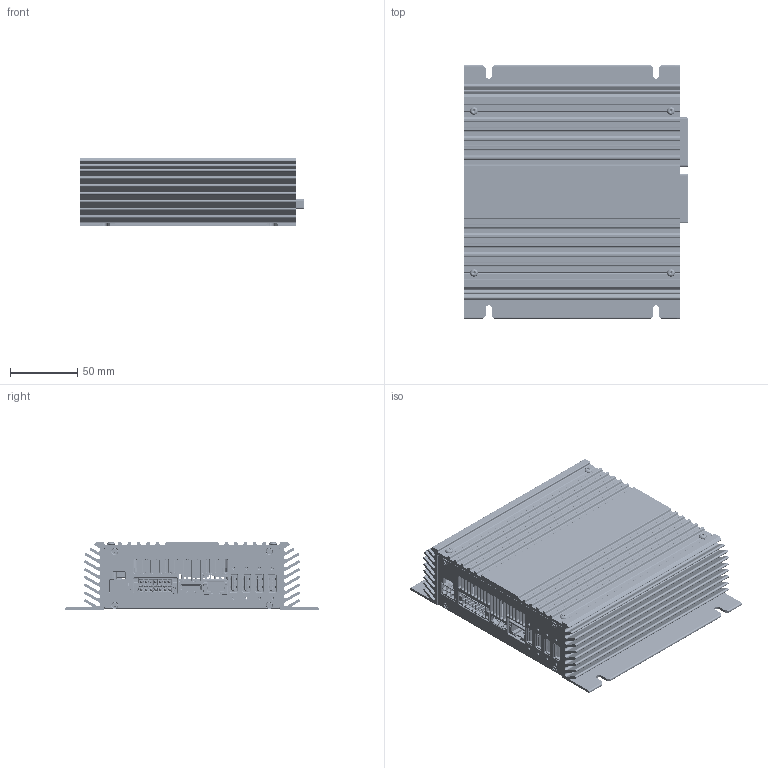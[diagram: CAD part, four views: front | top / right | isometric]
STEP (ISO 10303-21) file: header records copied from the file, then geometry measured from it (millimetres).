
FILE_DESCRIPTION(/* description */ (''),/* implementation_level */ '2;1');
FILE_NAME(/* name */ 'STP-MX-(MECH-XCX-2P-X8G3)-REV1-LW.stp',/* time_stamp */ '2019-12-06T13:58:43+01:00',/* author */ (''),/* organization */ (''),/* preprocessor_version */ 'ST-DEVELOPER v16',/* originating_system */ 'SIEMENS PLM Software NX 11.0',/* authorisation */ '');
FILE_SCHEMA (('AUTOMOTIVE_DESIGN { 1 0 10303 214 3 1 1 1 }'));
Products named in the file (26): ramka; MECH-THERM-PAD-20X10X1-TG6050; SROB-M3x6-CAP; SROB-M2.5X8-CSK; HS16-5-16; SROB-M3x5-IMBUS-STNLS; SROB-M3x3-IMBUS-STNLS ; HEATSINK-ATS1842-ND; SROB-M2.5x6-CAP; BFB0512HHA-CF00; MECH-ADVENTECH-MID-REV2-MTP; STANDOFF-MF-M2.5x10; SSD; MECH-COME-T6-PC-SIDE-REAR; MECH-COME-T6-PC-SIDE-FRONT; PCB-COME-TYPE6-PC-S-REV2.0; SROB-M2X5-IMBUS-STNLS; STANDOFF-MF-M2x5; SROB-M2X4-CSK-DIN965; MECH-COME-T6-PC-SSD-DOOR2; MECH-COME-T6-PC-SSD-DOOR; SROB-M2.5X5-IMBUS-STNLS; STANDOFF-MF-M2.5x5; MECH-COME-T6-PC-BASE; SOM-5899_20170925_MODEL; ASSEMBLY
Assembly tree (96 placements, depth 3):
  ASSEMBLY
    MECH-COME-T6-PC-BASE
    STANDOFF-MF-M2.5x5  x4
    SROB-M2.5X5-IMBUS-STNLS  x4
    MECH-COME-T6-PC-SSD-DOOR
    MECH-COME-T6-PC-SSD-DOOR2
    SROB-M2X4-CSK-DIN965  x8
    STANDOFF-MF-M2x5  x8
    SROB-M2X5-IMBUS-STNLS  x14
    PCB-COME-TYPE6-PC-S-REV2.0
    MECH-COME-T6-PC-SIDE-FRONT
    MECH-COME-T6-PC-SIDE-REAR
    SSD  x2
    SOM-5899_20170925_MODEL
      ramka  x2
    STANDOFF-MF-M2.5x10  x4
    MECH-ADVENTECH-MID-REV2-MTP
    BFB0512HHA-CF00  x2
    SROB-M2.5x6-CAP  x6
    HEATSINK-ATS1842-ND  x4
    SROB-M3x3-IMBUS-STNLS   x8
    SROB-M3x5-IMBUS-STNLS  x7
    HS16-5-16
    SROB-M2.5X8-CSK  x8
    SROB-M3x6-CAP  x4
    MECH-THERM-PAD-20X10X1-TG6050  x2
Bounding box: 165.61 x 188 x 50.5 mm (x, y, z)
Volume: 650588.1 mm3; surface area: 587835 mm2
Topology: 130 solids, 313 shells, 32140 faces, 88367 edges, 58112 vertices
Faces by surface type: plane 24436, cylinder 5715, cone 1296, bspline 455, torus 192, extrusion 34, sphere 10, revolution 2
Full cylindrical faces by diameter (mm): 0.5 x6, 0.7 x36, 0.9 x14, 1 x33, 1.1 x5, 1.3 x27, 1.4 x30, 1.55 x8, 1.6 x33, 1.8 x14, 2 x42, 2.1 x40, 2.3 x15, 2.5 x69, 2.6 x3, 3 x45, 3.2 x1, 3.25 x2, 3.35 x8, 3.5 x16, 3.8 x22, 4.1 x8, 4.5 x18, 5 x8, 5.1 x10, 5.5 x15, 5.7 x4
Entity records: 978413 total; most frequent: CARTESIAN_POINT 213394, ORIENTED_EDGE 156369, DIRECTION 145810, EDGE_CURVE 79067, VECTOR 65954, LINE 65927, VERTEX_POINT 52291, AXIS2_PLACEMENT_3D 39927
